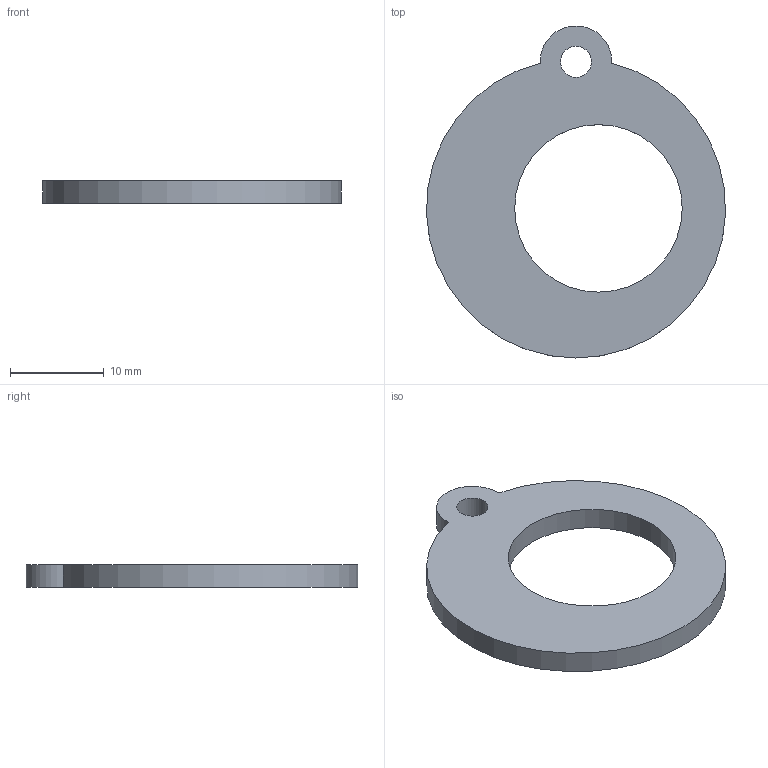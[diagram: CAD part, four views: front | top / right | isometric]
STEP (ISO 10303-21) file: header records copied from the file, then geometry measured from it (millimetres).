
FILE_DESCRIPTION(('Open CASCADE Model'),'2;1');
FILE_NAME('Open CASCADE Shape Model','2026-09-30T11:08:14',('Author'),( 'Open CASCADE'),'Open CASCADE STEP processor 8.0','Open CASCADE 8.0' ,'Unknown');
FILE_SCHEMA(('AUTOMOTIVE_DESIGN { 1 0 10303 214 1 1 1 1 }'));
Length unit declared in the file: millimetre
Products named in the file (1): Open CASCADE STEP translator 8.0 1
Bounding box: 31.98 x 35.51 x 2.4 mm (x, y, z)
Volume: 1356.6 mm3; surface area: 1543 mm2
Topology: 1 solids, 1 shells, 6 faces, 12 edges, 8 vertices
Faces by surface type: cylinder 4, plane 2
Full cylindrical faces by diameter (mm): 3.328 x1, 17.92 x1
Entity records: 343 total; most frequent: CARTESIAN_POINT 73, DIRECTION 51, ORIENTED_EDGE 24, PCURVE 24, DEFINITIONAL_REPRESENTATION 24, LINE 16, VECTOR 16, AXIS2_PLACEMENT_3D 15
